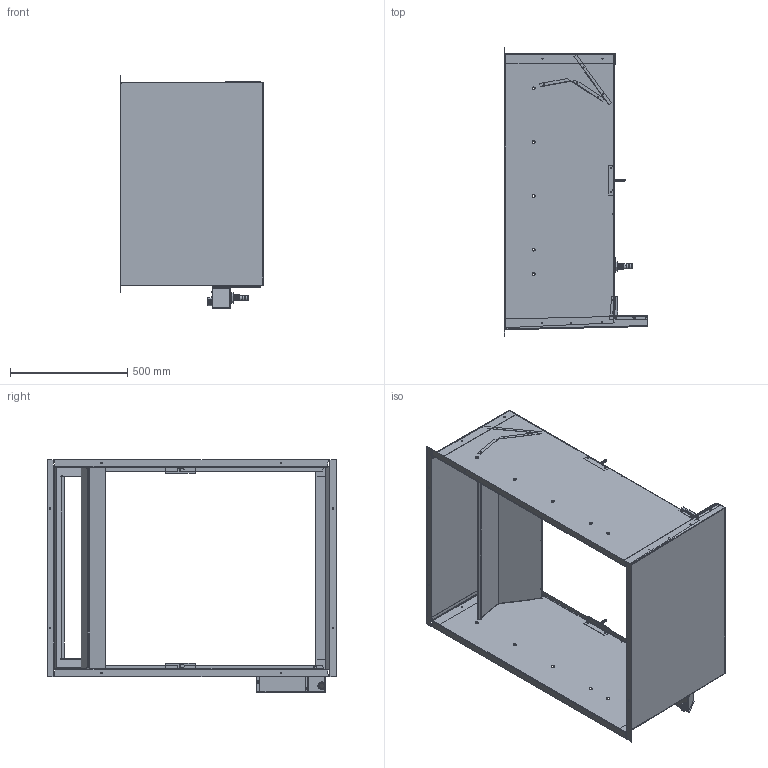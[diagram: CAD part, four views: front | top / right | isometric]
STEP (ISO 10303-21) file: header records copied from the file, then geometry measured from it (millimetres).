
FILE_DESCRIPTION (( 'STEP AP203' ), '1' );
FILE_NAME ('QWS42A-H19.STEP', '2014-03-14T10:45:22', ( 'generic' ), ( 'Hewlett-Packard Company' ), 'SwSTEP 2.0', 'SolidWorks 2014', '' );
FILE_SCHEMA (( 'CONFIG_CONTROL_DESIGN' ));
Length unit declared in the file: inch
Products named in the file (28): 110-108; 120-418; 120-417; 110-109; 5800-806-0100; 1012-149; 120-391; 6093-004; 6094-004; 130-120; bead1; 6094-004, nut; 136-449; 110-111; 120-419; 6094-004, washer; 1012-086; 110-110; md-3735; 1012-036; 136-450; QWS42A-H19; 106-268; 146-051; 104-1060; 1012-153; 122-115
Assembly tree (40 placements, depth 4):
  bead1
  QWS42A-H19
    110-111
    110-110
    136-450
    104-1060  x2
    110-108
    110-109
    120-391
    130-120
    136-449
    1012-086  x4
    1012-036  x2
    md-3735
      146-051
      1012-086  x3
      122-115
      120-417
      1012-149  x6
      6094-004
        6094-004
        6094-004, nut
        6094-004, washer
      106-268
      1012-153  x2
      120-418
      5800-806-0100
      6093-004
      120-419
Bounding box: 611.67 x 1231.92 x 991.56 mm (x, y, z)
Volume: 4237353 mm3; surface area: 5930148 mm2
Topology: 38 solids, 38 shells, 1726 faces, 3940 edges, 2321 vertices
Faces by surface type: plane 711, cylinder 521, cone 380, bspline 74, sphere 20, torus 20
Entity records: 44599 total; most frequent: CARTESIAN_POINT 9023, DIRECTION 6976, ORIENTED_EDGE 6426, EDGE_CURVE 3213, AXIS2_PLACEMENT_3D 2587, VERTEX_POINT 1888, VECTOR 1802, LINE 1802
